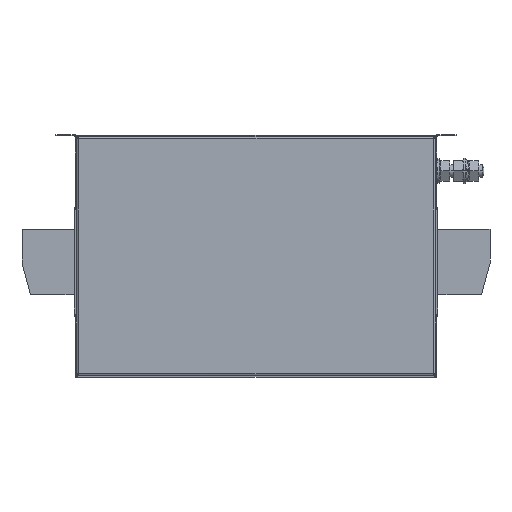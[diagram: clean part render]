
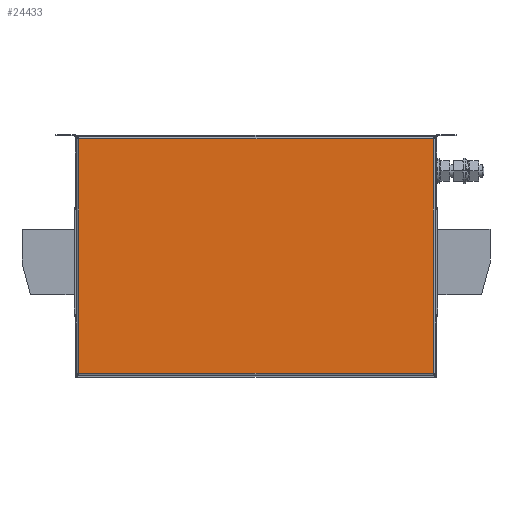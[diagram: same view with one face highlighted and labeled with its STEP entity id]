
A CAD part, front view. The second image highlights one B-rep face of the part: STEP entity #24433.
In plain terms, the highlighted planar face has unit normal (0, -1, 0).
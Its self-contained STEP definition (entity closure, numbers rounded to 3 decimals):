
#2467=DIRECTION('',(0.,0.,1.));
#2468=VECTOR('',#2467,193.5);
#2469=CARTESIAN_POINT('',(146.,-80.,-96.5));
#2470=LINE('',#2469,#2468);
#2699=DIRECTION('',(-1.,0.,0.));
#2700=VECTOR('',#2699,292.);
#2701=CARTESIAN_POINT('',(146.,-80.,97.));
#2702=LINE('',#2701,#2700);
#4005=DIRECTION('',(0.,0.,-1.));
#4006=VECTOR('',#4005,193.5);
#4007=CARTESIAN_POINT('',(-146.,-80.,97.));
#4008=LINE('',#4007,#4006);
#4753=DIRECTION('',(1.,0.,0.));
#4754=VECTOR('',#4753,292.);
#4755=CARTESIAN_POINT('',(-146.,-80.,-96.5));
#4756=LINE('',#4755,#4754);
#13458=CARTESIAN_POINT('',(-146.,-80.,-96.5));
#13460=VERTEX_POINT('',#13458);
#13463=CARTESIAN_POINT('',(-146.,-80.,97.));
#13464=VERTEX_POINT('',#13463);
#13469=CARTESIAN_POINT('',(146.,-80.,97.));
#13471=VERTEX_POINT('',#13469);
#13475=CARTESIAN_POINT('',(146.,-80.,-96.5));
#13476=VERTEX_POINT('',#13475);
#24421=CARTESIAN_POINT('',(0.,-80.,0.25));
#24422=DIRECTION('',(0.,1.,0.));
#24423=DIRECTION('',(1.,0.,0.));
#24424=AXIS2_PLACEMENT_3D('',#24421,#24422,#24423);
#24425=PLANE('',#24424);
#24426=ORIENTED_EDGE('',*,*,#21071,.F.);
#24428=ORIENTED_EDGE('',*,*,#24427,.F.);
#24429=ORIENTED_EDGE('',*,*,#23144,.F.);
#24430=ORIENTED_EDGE('',*,*,#21310,.F.);
#24431=EDGE_LOOP('',(#24426,#24428,#24429,#24430));
#24432=FACE_OUTER_BOUND('',#24431,.F.);
#21071=EDGE_CURVE('',#13476,#13471,#2470,.T.);
#21310=EDGE_CURVE('',#13471,#13464,#2702,.T.);
#23144=EDGE_CURVE('',#13464,#13460,#4008,.T.);
#24427=EDGE_CURVE('',#13460,#13476,#4756,.T.);
#24433=ADVANCED_FACE('',(#24432),#24425,.F.);
